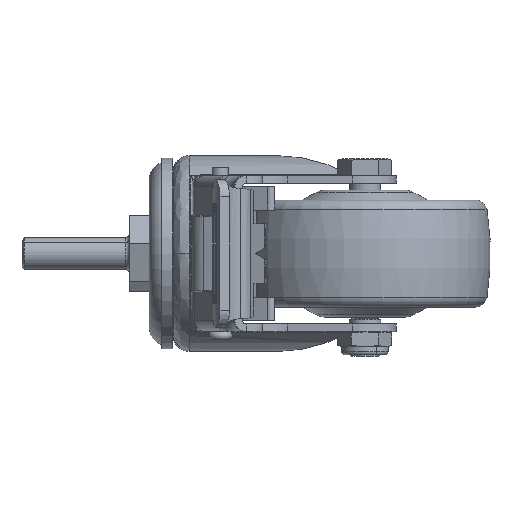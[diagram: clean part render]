
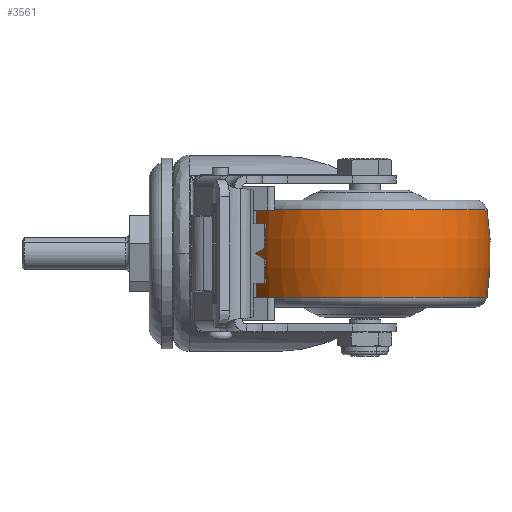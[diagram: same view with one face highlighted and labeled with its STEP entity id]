
A CAD part, left-side view. The second image highlights one B-rep face of the part: STEP entity #3561.
In plain terms, the highlighted toroidal (fillet/blend) face has major radius 48.5 mm and minor radius 86 mm.
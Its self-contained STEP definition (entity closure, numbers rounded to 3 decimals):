
#246 = CARTESIAN_POINT ( 'NONE',  ( 13.03, -36.507, 0. ) ) ;
#595 = DIRECTION ( 'NONE',  ( 0., -1., 0. ) ) ;
#706 = DIRECTION ( 'NONE',  ( 0., 1., 0. ) ) ;
#1015 = VERTEX_POINT ( 'NONE', #5092 ) ;
#1977 = CIRCLE ( 'NONE', #15658, 86. ) ;
#3204 = AXIS2_PLACEMENT_3D ( 'NONE', #13915, #5353, #12808 ) ;
#3421 = ORIENTED_EDGE ( 'NONE', *, *, #17532, .F. ) ;
#3561 = ADVANCED_FACE ( 'NONE', ( #16987 ), #13576, .T. ) ;
#4400 = DIRECTION ( 'NONE',  ( 0., 1., 0. ) ) ;
#5092 = CARTESIAN_POINT ( 'NONE',  ( 13.03, 36.507, 0. ) ) ;
#5147 = AXIS2_PLACEMENT_3D ( 'NONE', #7951, #15042, #4400 ) ;
#5351 = ORIENTED_EDGE ( 'NONE', *, *, #18097, .T. ) ;
#5353 = DIRECTION ( 'NONE',  ( 0., 0., -1. ) ) ;
#6363 = VERTEX_POINT ( 'NONE', #20460 ) ;
#6805 = DIRECTION ( 'NONE',  ( 1., 0., 0. ) ) ;
#6930 = VERTEX_POINT ( 'NONE', #7680 ) ;
#7221 = EDGE_CURVE ( 'NONE', #6363, #1015, #23115, .T. ) ;
#7680 = CARTESIAN_POINT ( 'NONE',  ( -13.03, -36.507, 0. ) ) ;
#7951 = CARTESIAN_POINT ( 'NONE',  ( 13.03, 0., 0. ) ) ;
#8350 = EDGE_LOOP ( 'NONE', ( #10883, #5351, #16866, #3421 ) ) ;
#8669 = AXIS2_PLACEMENT_3D ( 'NONE', #11840, #6805, #706 ) ;
#10883 = ORIENTED_EDGE ( 'NONE', *, *, #23705, .F. ) ;
#11418 = CIRCLE ( 'NONE', #8669, 36.507 ) ;
#11840 = CARTESIAN_POINT ( 'NONE',  ( -13.03, 0., 0. ) ) ;
#12808 = DIRECTION ( 'NONE',  ( -1., 0., 0. ) ) ;
#13576 = TOROIDAL_SURFACE ( 'NONE', #19058, -48.5, 86. ) ;
#13915 = CARTESIAN_POINT ( 'NONE',  ( 0., -48.5, 0. ) ) ;
#15042 = DIRECTION ( 'NONE',  ( 1., 0., 0. ) ) ;
#15658 = AXIS2_PLACEMENT_3D ( 'NONE', #15991, #19297, #595 ) ;
#15991 = CARTESIAN_POINT ( 'NONE',  ( 0., 48.5, 0. ) ) ;
#16482 = CIRCLE ( 'NONE', #5147, 36.507 ) ;
#16866 = ORIENTED_EDGE ( 'NONE', *, *, #7221, .T. ) ;
#16987 = FACE_OUTER_BOUND ( 'NONE', #8350, .T. ) ;
#17103 = DIRECTION ( 'NONE',  ( 1., 0., 0. ) ) ;
#17532 = EDGE_CURVE ( 'NONE', #19559, #1015, #16482, .T. ) ;
#18097 = EDGE_CURVE ( 'NONE', #6930, #6363, #11418, .T. ) ;
#18933 = CARTESIAN_POINT ( 'NONE',  ( 0., 0., 0. ) ) ;
#19058 = AXIS2_PLACEMENT_3D ( 'NONE', #18933, #17103, #20773 ) ;
#19297 = DIRECTION ( 'NONE',  ( 0., 0., 1. ) ) ;
#19559 = VERTEX_POINT ( 'NONE', #246 ) ;
#20460 = CARTESIAN_POINT ( 'NONE',  ( -13.03, 36.507, 0. ) ) ;
#20773 = DIRECTION ( 'NONE',  ( 0., 1., 0. ) ) ;
#23115 = CIRCLE ( 'NONE', #3204, 86. ) ;
#23705 = EDGE_CURVE ( 'NONE', #6930, #19559, #1977, .T. ) ;
